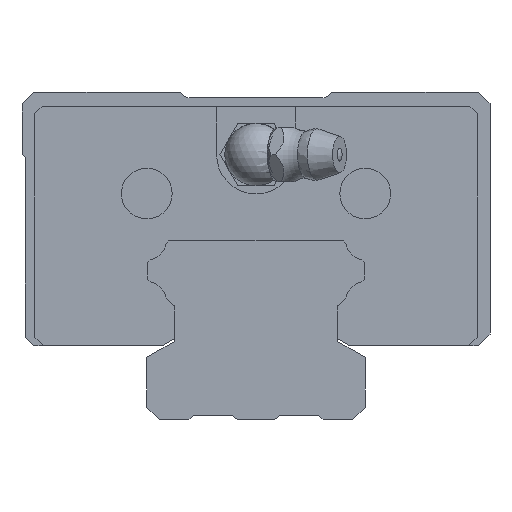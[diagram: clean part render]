
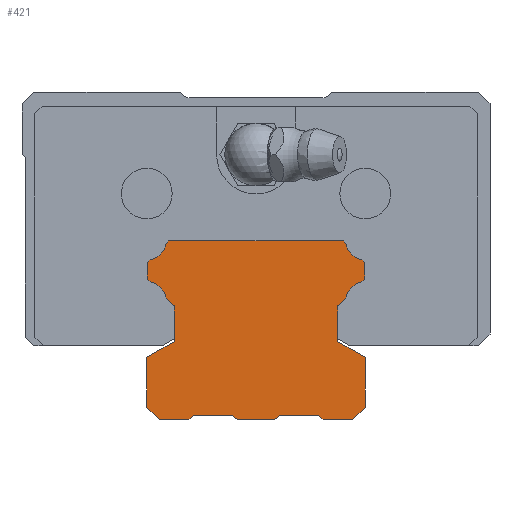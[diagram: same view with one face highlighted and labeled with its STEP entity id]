
A CAD part, front view. The second image highlights one B-rep face of the part: STEP entity #421.
In plain terms, the highlighted planar face has unit normal (0, -1, 0).
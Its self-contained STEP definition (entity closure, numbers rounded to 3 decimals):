
#282=CIRCLE('',#3298,2.6);
#284=CIRCLE('',#3304,2.6);
#295=CIRCLE('',#3336,2.6);
#297=CIRCLE('',#3342,2.6);
#421=ADVANCED_FACE('',(#718),#578,.T.);
#578=PLANE('',#3346);
#718=FACE_OUTER_BOUND('',#883,.T.);
#883=EDGE_LOOP('',(#1384,#1385,#1386,#1387,#1388,#1389,#1390,#1391,#1392,
#1393,#1394,#1395,#1396,#1397,#1398,#1399,#1400,#1401,#1402,#1403,#1404,
#1405,#1406,#1407,#1408,#1409,#1410,#1411,#1412,#1413,#1414,#1415));
#1384=ORIENTED_EDGE('',*,*,#2243,.T.);
#1385=ORIENTED_EDGE('',*,*,#2313,.T.);
#1386=ORIENTED_EDGE('',*,*,#2316,.F.);
#1387=ORIENTED_EDGE('',*,*,#2319,.T.);
#1388=ORIENTED_EDGE('',*,*,#2322,.T.);
#1389=ORIENTED_EDGE('',*,*,#2325,.T.);
#1390=ORIENTED_EDGE('',*,*,#2328,.F.);
#1391=ORIENTED_EDGE('',*,*,#2336,.T.);
#1392=ORIENTED_EDGE('',*,*,#2340,.F.);
#1393=ORIENTED_EDGE('',*,*,#2343,.T.);
#1394=ORIENTED_EDGE('',*,*,#2346,.T.);
#1395=ORIENTED_EDGE('',*,*,#2350,.F.);
#1396=ORIENTED_EDGE('',*,*,#2354,.T.);
#1397=ORIENTED_EDGE('',*,*,#2357,.T.);
#1398=ORIENTED_EDGE('',*,*,#2360,.F.);
#1399=ORIENTED_EDGE('',*,*,#2363,.F.);
#1400=ORIENTED_EDGE('',*,*,#2366,.T.);
#1401=ORIENTED_EDGE('',*,*,#2369,.F.);
#1402=ORIENTED_EDGE('',*,*,#2372,.F.);
#1403=ORIENTED_EDGE('',*,*,#2375,.F.);
#1404=ORIENTED_EDGE('',*,*,#2378,.F.);
#1405=ORIENTED_EDGE('',*,*,#2381,.T.);
#1406=ORIENTED_EDGE('',*,*,#2384,.T.);
#1407=ORIENTED_EDGE('',*,*,#2387,.F.);
#1408=ORIENTED_EDGE('',*,*,#2285,.T.);
#1409=ORIENTED_EDGE('',*,*,#2293,.F.);
#1410=ORIENTED_EDGE('',*,*,#2296,.F.);
#1411=ORIENTED_EDGE('',*,*,#2299,.F.);
#1412=ORIENTED_EDGE('',*,*,#2302,.F.);
#1413=ORIENTED_EDGE('',*,*,#2305,.F.);
#1414=ORIENTED_EDGE('',*,*,#2308,.T.);
#1415=ORIENTED_EDGE('',*,*,#2311,.F.);
#1918=VERTEX_POINT('',#4637);
#1919=VERTEX_POINT('',#4639);
#1952=VERTEX_POINT('',#4727);
#1953=VERTEX_POINT('',#4728);
#1960=VERTEX_POINT('',#4744);
#1962=VERTEX_POINT('',#4750);
#1964=VERTEX_POINT('',#4756);
#1966=VERTEX_POINT('',#4762);
#1968=VERTEX_POINT('',#4768);
#1970=VERTEX_POINT('',#4774);
#1972=VERTEX_POINT('',#4783);
#1974=VERTEX_POINT('',#4789);
#1976=VERTEX_POINT('',#4795);
#1978=VERTEX_POINT('',#4801);
#1980=VERTEX_POINT('',#4807);
#1982=VERTEX_POINT('',#4813);
#1985=VERTEX_POINT('',#4824);
#1987=VERTEX_POINT('',#4831);
#1989=VERTEX_POINT('',#4837);
#1991=VERTEX_POINT('',#4843);
#1993=VERTEX_POINT('',#4850);
#1994=VERTEX_POINT('',#4857);
#1996=VERTEX_POINT('',#4863);
#1998=VERTEX_POINT('',#4869);
#2000=VERTEX_POINT('',#4875);
#2002=VERTEX_POINT('',#4881);
#2004=VERTEX_POINT('',#4887);
#2006=VERTEX_POINT('',#4893);
#2008=VERTEX_POINT('',#4899);
#2010=VERTEX_POINT('',#4905);
#2012=VERTEX_POINT('',#4911);
#2014=VERTEX_POINT('',#4917);
#2243=EDGE_CURVE('',#1919,#1918,#2635,.T.);
#2285=EDGE_CURVE('',#1952,#1953,#2656,.T.);
#2293=EDGE_CURVE('',#1960,#1953,#2660,.T.);
#2296=EDGE_CURVE('',#1962,#1960,#2663,.T.);
#2299=EDGE_CURVE('',#1964,#1962,#282,.T.);
#2302=EDGE_CURVE('',#1966,#1964,#2667,.T.);
#2305=EDGE_CURVE('',#1968,#1966,#2670,.T.);
#2308=EDGE_CURVE('',#1968,#1970,#2673,.T.);
#2311=EDGE_CURVE('',#1919,#1970,#284,.T.);
#2313=EDGE_CURVE('',#1918,#1972,#2676,.T.);
#2316=EDGE_CURVE('',#1974,#1972,#2679,.T.);
#2319=EDGE_CURVE('',#1974,#1976,#2682,.T.);
#2322=EDGE_CURVE('',#1976,#1978,#2685,.T.);
#2325=EDGE_CURVE('',#1978,#1980,#2688,.T.);
#2328=EDGE_CURVE('',#1982,#1980,#2691,.T.);
#2336=EDGE_CURVE('',#1982,#1985,#2695,.T.);
#2340=EDGE_CURVE('',#1987,#1985,#2698,.T.);
#2343=EDGE_CURVE('',#1987,#1989,#2700,.T.);
#2346=EDGE_CURVE('',#1989,#1991,#2702,.T.);
#2350=EDGE_CURVE('',#1993,#1991,#2705,.T.);
#2354=EDGE_CURVE('',#1993,#1994,#2706,.T.);
#2357=EDGE_CURVE('',#1994,#1996,#2709,.T.);
#2360=EDGE_CURVE('',#1998,#1996,#2712,.T.);
#2363=EDGE_CURVE('',#2000,#1998,#2715,.T.);
#2366=EDGE_CURVE('',#2000,#2002,#2718,.T.);
#2369=EDGE_CURVE('',#2004,#2002,#2721,.T.);
#2372=EDGE_CURVE('',#2006,#2004,#2724,.T.);
#2375=EDGE_CURVE('',#2008,#2006,#295,.T.);
#2378=EDGE_CURVE('',#2010,#2008,#2728,.T.);
#2381=EDGE_CURVE('',#2010,#2012,#2731,.T.);
#2384=EDGE_CURVE('',#2012,#2014,#2734,.T.);
#2387=EDGE_CURVE('',#1952,#2014,#297,.T.);
#2635=LINE('',#4638,#2939);
#2656=LINE('',#4726,#2960);
#2660=LINE('',#4743,#2964);
#2663=LINE('',#4749,#2967);
#2667=LINE('',#4761,#2971);
#2670=LINE('',#4767,#2974);
#2673=LINE('',#4773,#2977);
#2676=LINE('',#4782,#2980);
#2679=LINE('',#4788,#2983);
#2682=LINE('',#4794,#2986);
#2685=LINE('',#4800,#2989);
#2688=LINE('',#4806,#2992);
#2691=LINE('',#4812,#2995);
#2695=LINE('',#4825,#2999);
#2698=LINE('',#4832,#3002);
#2700=LINE('',#4838,#3004);
#2702=LINE('',#4844,#3006);
#2705=LINE('',#4851,#3009);
#2706=LINE('',#4856,#3010);
#2709=LINE('',#4862,#3013);
#2712=LINE('',#4868,#3016);
#2715=LINE('',#4874,#3019);
#2718=LINE('',#4880,#3022);
#2721=LINE('',#4886,#3025);
#2724=LINE('',#4892,#3028);
#2728=LINE('',#4904,#3032);
#2731=LINE('',#4910,#3035);
#2734=LINE('',#4916,#3038);
#2939=VECTOR('',#3627,1.);
#2960=VECTOR('',#3716,1.);
#2964=VECTOR('',#3730,1.);
#2967=VECTOR('',#3735,1.);
#2971=VECTOR('',#3747,1.);
#2974=VECTOR('',#3752,1.);
#2977=VECTOR('',#3757,1.);
#2980=VECTOR('',#3768,1.);
#2983=VECTOR('',#3773,1.);
#2986=VECTOR('',#3778,1.);
#2989=VECTOR('',#3783,1.);
#2992=VECTOR('',#3788,1.);
#2995=VECTOR('',#3793,1.);
#2999=VECTOR('',#3807,1.);
#3002=VECTOR('',#3814,1.);
#3004=VECTOR('',#3820,1.);
#3006=VECTOR('',#3826,1.);
#3009=VECTOR('',#3833,1.);
#3010=VECTOR('',#3842,1.);
#3013=VECTOR('',#3847,1.);
#3016=VECTOR('',#3852,1.);
#3019=VECTOR('',#3857,1.);
#3022=VECTOR('',#3862,1.);
#3025=VECTOR('',#3867,1.);
#3028=VECTOR('',#3872,1.);
#3032=VECTOR('',#3884,1.);
#3035=VECTOR('',#3889,1.);
#3038=VECTOR('',#3894,1.);
#3298=AXIS2_PLACEMENT_3D('',#4755,#3740,#3741);
#3304=AXIS2_PLACEMENT_3D('',#4779,#3762,#3763);
#3336=AXIS2_PLACEMENT_3D('',#4898,#3877,#3878);
#3342=AXIS2_PLACEMENT_3D('',#4922,#3899,#3900);
#3346=AXIS2_PLACEMENT_3D('',#4926,#3907,#3908);
#3627=DIRECTION('',(0.707,0.,-0.707));
#3716=DIRECTION('',(-0.707,0.,0.707));
#3730=DIRECTION('',(1.,0.,0.));
#3735=DIRECTION('',(0.707,0.,0.707));
#3740=DIRECTION('',(0.,-1.,0.));
#3741=DIRECTION('',(1.,0.,0.));
#3747=DIRECTION('',(0.707,0.,0.707));
#3752=DIRECTION('',(0.,0.,1.));
#3757=DIRECTION('',(0.707,0.,-0.707));
#3762=DIRECTION('',(0.,-1.,0.));
#3763=DIRECTION('',(1.,0.,0.));
#3768=DIRECTION('',(0.,0.,-1.));
#3773=DIRECTION('',(0.866,0.,0.5));
#3778=DIRECTION('',(0.,0.,-1.));
#3783=DIRECTION('',(0.707,0.,-0.707));
#3788=DIRECTION('',(1.,0.,0.));
#3793=DIRECTION('',(-0.707,0.,-0.707));
#3807=DIRECTION('',(1.,0.,0.));
#3814=DIRECTION('',(-0.707,0.,0.707));
#3820=DIRECTION('',(1.,0.,0.));
#3826=DIRECTION('',(0.707,0.,0.707));
#3833=DIRECTION('',(-1.,0.,0.));
#3842=DIRECTION('',(0.707,0.,-0.707));
#3847=DIRECTION('',(1.,0.,0.));
#3852=DIRECTION('',(-0.707,0.,-0.707));
#3857=DIRECTION('',(0.,0.,-1.));
#3862=DIRECTION('',(-0.866,0.,0.5));
#3867=DIRECTION('',(0.,0.,-1.));
#3872=DIRECTION('',(-0.707,0.,-0.707));
#3877=DIRECTION('',(0.,-1.,0.));
#3878=DIRECTION('',(1.,0.,0.));
#3884=DIRECTION('',(-0.707,0.,-0.707));
#3889=DIRECTION('',(0.,0.,1.));
#3894=DIRECTION('',(-0.707,0.,0.707));
#3899=DIRECTION('',(0.,-1.,0.));
#3900=DIRECTION('',(1.,0.,0.));
#3907=DIRECTION('',(0.,-1.,0.));
#3908=DIRECTION('',(0.,0.,-1.));
#4637=CARTESIAN_POINT('',(-10.5,-140.,14.601));
#4638=CARTESIAN_POINT('',(-11.512,-140.,15.612));
#4639=CARTESIAN_POINT('',(-11.512,-140.,15.612));
#4726=CARTESIAN_POINT('',(11.512,-140.,22.588));
#4727=CARTESIAN_POINT('',(11.512,-140.,22.588));
#4728=CARTESIAN_POINT('',(11.169,-140.,22.93));
#4743=CARTESIAN_POINT('',(-11.169,-140.,22.93));
#4744=CARTESIAN_POINT('',(-11.169,-140.,22.93));
#4749=CARTESIAN_POINT('',(-11.512,-140.,22.588));
#4750=CARTESIAN_POINT('',(-11.512,-140.,22.588));
#4755=CARTESIAN_POINT('',(-14.067,-140.,23.067));
#4756=CARTESIAN_POINT('',(-13.588,-140.,20.512));
#4761=CARTESIAN_POINT('',(-13.93,-140.,20.169));
#4762=CARTESIAN_POINT('',(-13.93,-140.,20.169));
#4767=CARTESIAN_POINT('',(-13.93,-140.,18.031));
#4768=CARTESIAN_POINT('',(-13.93,-140.,18.031));
#4773=CARTESIAN_POINT('',(-13.93,-140.,18.031));
#4774=CARTESIAN_POINT('',(-13.588,-140.,17.688));
#4779=CARTESIAN_POINT('',(-14.067,-140.,15.133));
#4782=CARTESIAN_POINT('',(-10.5,-140.,10.367));
#4783=CARTESIAN_POINT('',(-10.5,-140.,10.021));
#4788=CARTESIAN_POINT('',(-14.,-140.,8.));
#4789=CARTESIAN_POINT('',(-14.,-140.,8.));
#4794=CARTESIAN_POINT('',(-14.,-140.,8.));
#4795=CARTESIAN_POINT('',(-14.,-140.,1.6));
#4800=CARTESIAN_POINT('',(-14.,-140.,1.6));
#4801=CARTESIAN_POINT('',(-12.4,-140.,0.));
#4806=CARTESIAN_POINT('',(-12.4,-140.,0.));
#4807=CARTESIAN_POINT('',(-8.6,-140.,0.));
#4812=CARTESIAN_POINT('',(-8.,-140.,0.6));
#4813=CARTESIAN_POINT('',(-8.,-140.,0.6));
#4824=CARTESIAN_POINT('',(-3.,-140.,0.6));
#4825=CARTESIAN_POINT('',(-8.,-140.,0.6));
#4831=CARTESIAN_POINT('',(-2.4,-140.,0.));
#4832=CARTESIAN_POINT('',(-2.4,-140.,0.));
#4837=CARTESIAN_POINT('',(2.4,-140.,0.));
#4838=CARTESIAN_POINT('',(-2.4,-140.,0.));
#4843=CARTESIAN_POINT('',(3.,-140.,0.6));
#4844=CARTESIAN_POINT('',(2.4,-140.,0.));
#4850=CARTESIAN_POINT('',(8.,-140.,0.6));
#4851=CARTESIAN_POINT('',(8.,-140.,0.6));
#4856=CARTESIAN_POINT('',(8.,-140.,0.6));
#4857=CARTESIAN_POINT('',(8.6,-140.,0.));
#4862=CARTESIAN_POINT('',(8.6,-140.,0.));
#4863=CARTESIAN_POINT('',(12.4,-140.,0.));
#4868=CARTESIAN_POINT('',(14.,-140.,1.6));
#4869=CARTESIAN_POINT('',(14.,-140.,1.6));
#4874=CARTESIAN_POINT('',(14.,-140.,8.));
#4875=CARTESIAN_POINT('',(14.,-140.,8.));
#4880=CARTESIAN_POINT('',(14.,-140.,8.));
#4881=CARTESIAN_POINT('',(10.5,-140.,10.021));
#4886=CARTESIAN_POINT('',(10.5,-140.,10.367));
#4887=CARTESIAN_POINT('',(10.5,-140.,14.601));
#4892=CARTESIAN_POINT('',(11.512,-140.,15.612));
#4893=CARTESIAN_POINT('',(11.512,-140.,15.612));
#4898=CARTESIAN_POINT('',(14.067,-140.,15.133));
#4899=CARTESIAN_POINT('',(13.588,-140.,17.688));
#4904=CARTESIAN_POINT('',(13.93,-140.,18.031));
#4905=CARTESIAN_POINT('',(13.93,-140.,18.031));
#4910=CARTESIAN_POINT('',(13.93,-140.,18.031));
#4911=CARTESIAN_POINT('',(13.93,-140.,20.169));
#4916=CARTESIAN_POINT('',(13.93,-140.,20.169));
#4917=CARTESIAN_POINT('',(13.588,-140.,20.512));
#4922=CARTESIAN_POINT('',(14.067,-140.,23.067));
#4926=CARTESIAN_POINT('',(-14.067,-140.,23.067));
